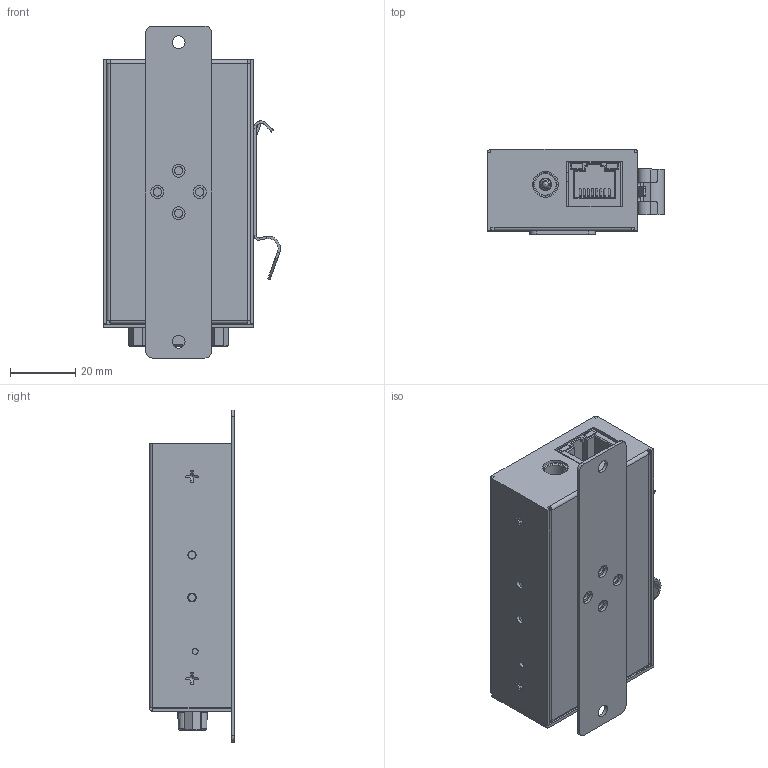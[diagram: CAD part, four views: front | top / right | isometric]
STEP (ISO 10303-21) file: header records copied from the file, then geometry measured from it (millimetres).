
FILE_DESCRIPTION(/* description */ (''),/* implementation_level */ '2;1');
FILE_NAME(/* name */ '/Users/leo/Desktop/Desktop - Leonardo’s MacBook Air/Coolgear May/MSD-SRP1XM-PRO/MSD-SRP1XM-PRO Model3D LPV1.step',/* time_stamp */ '2021-07-08T16:21:12-04:00',/* author */ (''),/* organization */ (''),/* preprocessor_version */ 'ST-DEVELOPER v18.1',/* originating_system */ 'Autodesk Translation Framework v10.9.0.1377',/* authorisation */ '');
FILE_SCHEMA (('AUTOMOTIVE_DESIGN { 1 0 10303 214 3 1 1 }'));
Length unit declared in the file: millimetre
Products named in the file (17): MSD-SRP2XM-TBPRO; Component1; 93090A547; LAN connector v1; HR911105A; Connector Volts Black plastic v2; Component1 (1); Component2 (1); Component3 (1); Component4 (1); Bolt M3X0.5 90Angle head.5-4mmL v1; DINRCLP3X 14mmW v12; DINRCLP3X; M3X0.5 China 120ang METRIC 18-8 SS FLAT HEAD PHIL MACHINE SCREW v2; Component20; Serial Port v1; Component22
Assembly tree (21 placements, depth 3):
  MSD-SRP2XM-TBPRO
    Component1
      93090A547  x2
    LAN connector v1
      HR911105A
    Connector Volts Black plastic v2
      Component1 (1)
      Component2 (1)
      Component3 (1)
      Component4 (1)
    Bolt M3X0.5 90Angle head.5-4mmL v1  x4
    DINRCLP3X 14mmW v12
      DINRCLP3X
      M3X0.5 China 120ang METRIC 18-8 SS FLAT HEAD PHIL MACHINE SCREW v2  x2
    Component20
    Serial Port v1
    Component22
Bounding box: 54.21 x 26 x 101.62 mm (x, y, z)
Volume: 29272 mm3; surface area: 44097.7 mm2
Topology: 7 solids, 7 shells, 973 faces, 2643 edges, 1701 vertices
Faces by surface type: plane 567, cylinder 268, cone 88, bspline 27, torus 12, sphere 11
Full cylindrical faces by diameter (mm): 0.8 x8, 1 x13, 1.5 x2, 1.847 x1, 1.85 x2, 2.323 x12, 2.35 x8, 2.376 x1, 2.529 x8, 2.6 x2, 2.8 x2, 3 x26, 3.894 x1, 3.95 x6, 5.4 x2, 5.544 x2, 6.6 x1, 7.9 x1
Entity records: 38576 total; most frequent: CARTESIAN_POINT 15092, ORIENTED_EDGE 4974, DIRECTION 4557, EDGE_CURVE 2487, VERTEX_POINT 1621, LINE 1617, VECTOR 1617, AXIS2_PLACEMENT_3D 1470
